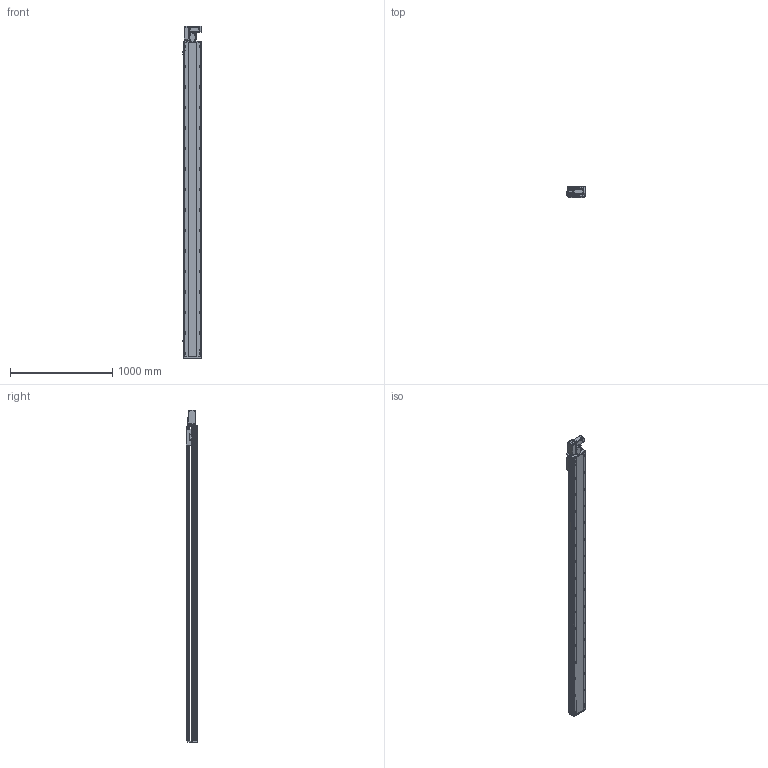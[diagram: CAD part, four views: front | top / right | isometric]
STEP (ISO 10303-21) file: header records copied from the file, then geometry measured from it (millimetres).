
FILE_DESCRIPTION (( 'STEP AP214' ), '1' );
FILE_NAME ('RTB17S-XX-2800-L-M40-C4.STEP', '2025-12-11T05:59:09', ( '' ), ( '' ), 'SwSTEP 2.0', 'SolidWorks 2018', '' );
FILE_SCHEMA (( 'AUTOMOTIVE_DESIGN' ));
Length unit declared in the file: millimetre
Products named in the file (14): OMRON EE-SX672 传感器^RTB17S-XX-XX-L-M40-C4（方程式）; RTB17S-L-007上盖^RTB17S-XX-XX-L-M40-C4（方程式）; 400W伺服电机^RTB17S-XX-XX-L-M40-C4（方程式）; RTB17-R-011底座^RTB17S-XX-XX-L-M40-C4（方程式）; RTB17S-L-皮带座装配-400W^RTB17S-XX-XX-L-M40-C4（方程式）; RTB17S-L-001侧面板^RTB17S-XX-XX-L-M40-C4（方程式）; RTB14-L-017P^RTB17S-L-皮带座装配-400W_RTB17S-XX-XX-L-M40-C4（方程式）; RTB14-L-005P--轴承塑胶压盖^RTB17S-L-皮带座装配-400W_RTB17S-XX-XX-L-M40-C4（方程式）; RTH13-BL-012感应片外置^RTB17S-XX-XX-L-M40-C4（方程式）; RTB14-L-008-M20--电机板^RTB17S-L-皮带座装配-400W_RTB17S-XX-XX-L-M40-C4（方程式）; RTB17S-XX-2800-L-M40-C4; RTB14-L-018P^RTB17S-L-皮带座装配-400W_RTB17S-XX-XX-L-M40-C4（方程式）; RTB17S-L-004丝杆螺母连接座^RTB17S-XX-XX-L-M40-C4（方程式）; RMP17S-L-014-T20--皮带座^RTB17S-L-皮带座装配-400W_RTB17S-XX-XX-L-M40-C4（方程式）
Assembly tree (16 placements, depth 3):
  RTB17S-XX-2800-L-M40-C4
    RTB17-R-011底座^RTB17S-XX-XX-L-M40-C4（方程式）
    RTB17S-L-007上盖^RTB17S-XX-XX-L-M40-C4（方程式）
    OMRON EE-SX672 传感器^RTB17S-XX-XX-L-M40-C4（方程式）  x3
    RTB17S-L-001侧面板^RTB17S-XX-XX-L-M40-C4（方程式）
    400W伺服电机^RTB17S-XX-XX-L-M40-C4（方程式）
    RTB17S-L-004丝杆螺母连接座^RTB17S-XX-XX-L-M40-C4（方程式）
    RTH13-BL-012感应片外置^RTB17S-XX-XX-L-M40-C4（方程式）
    RTB17S-L-皮带座装配-400W^RTB17S-XX-XX-L-M40-C4（方程式）
      RMP17S-L-014-T20--皮带座^RTB17S-L-皮带座装配-400W_RTB17S-XX-XX-L-M40-C4（方程式）
      RTB14-L-005P--轴承塑胶压盖^RTB17S-L-皮带座装配-400W_RTB17S-XX-XX-L-M40-C4（方程式）
      RTB14-L-008-M20--电机板^RTB17S-L-皮带座装配-400W_RTB17S-XX-XX-L-M40-C4（方程式）
      RTB14-L-017P^RTB17S-L-皮带座装配-400W_RTB17S-XX-XX-L-M40-C4（方程式）  x2
      RTB14-L-018P^RTB17S-L-皮带座装配-400W_RTB17S-XX-XX-L-M40-C4（方程式）
Bounding box: 186 x 108 x 3241 mm (x, y, z)
Volume: 27055815.2 mm3; surface area: 3097890 mm2
Topology: 15 solids, 15 shells, 2349 faces, 6573 edges, 4293 vertices
Faces by surface type: plane 1086, cylinder 815, bspline 301, cone 139, torus 8
Entity records: 69545 total; most frequent: CARTESIAN_POINT 19778, ORIENTED_EDGE 9990, DIRECTION 9206, EDGE_CURVE 4995, VERTEX_POINT 3281, AXIS2_PLACEMENT_3D 3211, LINE 2784, VECTOR 2784
